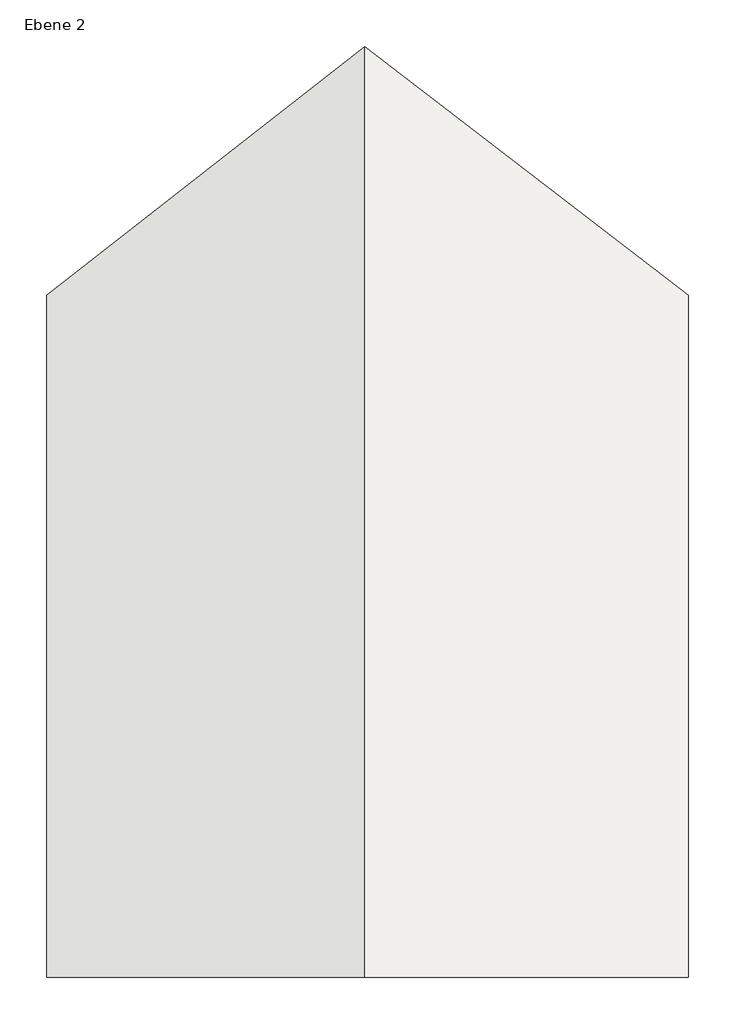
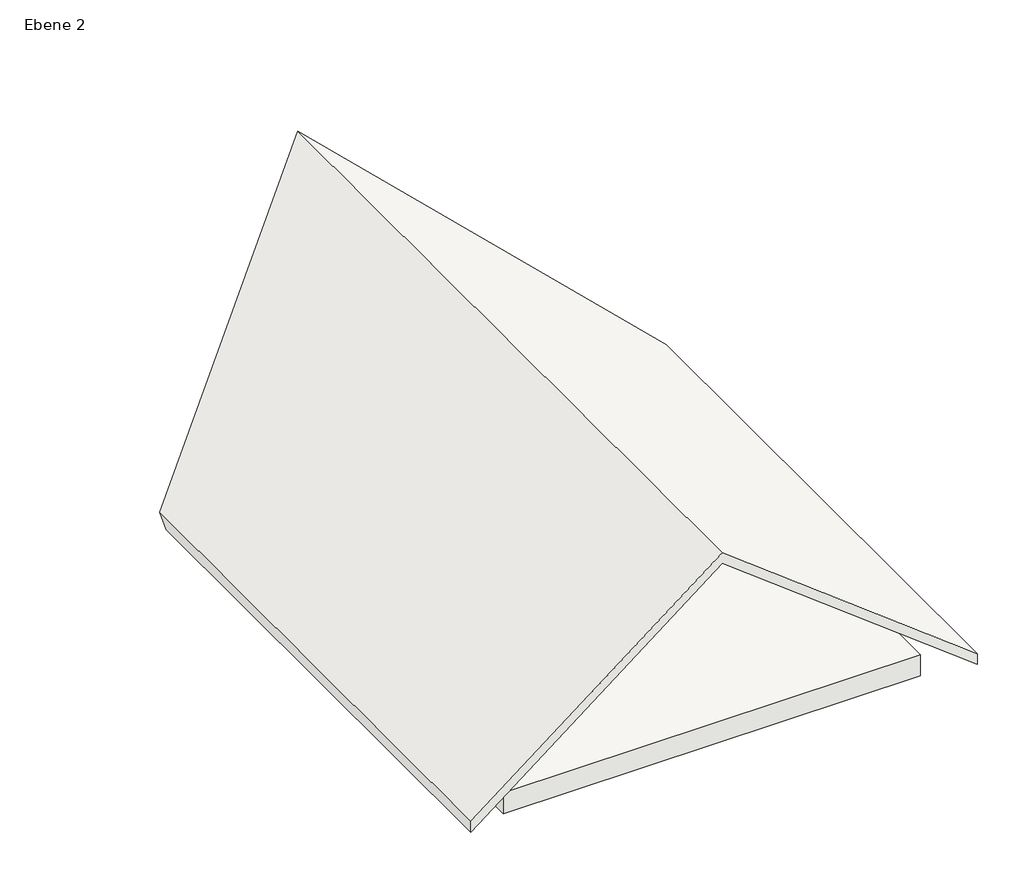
# One storey: 1 roof, 1 slab.
"""IFC4 building model written with IfcOpenShell, lengths in millimetres."""

import ifcopenshell
import ifcopenshell.guid

model = None  # the IFC model being written
_history = None  # IfcOwnerHistory: only IFC2X3 demands one
_inside = {}  # id of a spatial element -> (the spatial element, [elements in it])
_under = {}  # id of a project, library or spatial element -> (it, [spatial elements below it])
_declared = {}  # id of a project -> (the project, [libraries it declares])
_typed = {}  # id of a type object -> (the type object, [elements of that type])
_made_of = {}  # id of a material, layer set ... -> (it, [elements and type objects made of it])


def new_model(schema):
    """Start an empty IFC model of exactly this schema.

    Asked for "IFC4X3", IfcOpenShell would pick the latest addendum, in which some entities
    have other attributes; the version numbers below select the first issue.
    IFC2X3 requires an IfcOwnerHistory on every rooted entity: one is made here for all.
    """
    global model, _history
    if schema == "IFC4X3":
        model = ifcopenshell.file(schema_version=(4, 3, 0, 0))
    else:
        model = ifcopenshell.file(schema=schema)
    _inside.clear()
    _under.clear()
    _declared.clear()
    _typed.clear()
    _made_of.clear()
    _history = None
    if model.schema == "IFC2X3":
        org = make("IfcOrganization", Name="unknown")
        user = make(
            "IfcPersonAndOrganization",
            ThePerson=make("IfcPerson", FamilyName="unknown"),
            TheOrganization=org,
        )
        app = make(
            "IfcApplication",
            ApplicationDeveloper=org,
            Version="unknown",
            ApplicationFullName="unknown",
            ApplicationIdentifier="unknown",
        )
        _history = make(
            "IfcOwnerHistory",
            OwningUser=user,
            OwningApplication=app,
            ChangeAction="ADDED",
            CreationDate=0,
        )
    return model


def make(cls, **values):
    """One entity of the class cls with the attributes given. An attribute that is None is left unset."""
    return model.create_entity(
        cls, **{name: value for name, value in values.items() if value is not None}
    )


def rooted(cls, **values):
    """An entity with a GlobalId (a new one), such as an element, a storey or a relation."""
    return make(cls, GlobalId=ifcopenshell.guid.new(), OwnerHistory=_history, **values)


def si_unit(unit_type, name, prefix=None):
    """IfcSIUnit, for example si_unit("LENGTHUNIT", "METRE", prefix="MILLI")."""
    return make("IfcSIUnit", UnitType=unit_type, Prefix=prefix, Name=name)


def assignment(units):
    """IfcUnitAssignment: the units of a project."""
    return None if units is None else make("IfcUnitAssignment", Units=units)


def point(xyz):
    """IfcCartesianPoint."""
    return None if xyz is None else make("IfcCartesianPoint", Coordinates=xyz)


def direction(xyz):
    """IfcDirection."""
    return None if xyz is None else make("IfcDirection", DirectionRatios=xyz)


def frame(location, z_axis=None, x_axis=None):
    """IfcAxis2Placement3D, a coordinate frame: its origin and axes. An axis left out is left unset."""
    return make(
        "IfcAxis2Placement3D",
        Location=point(location),
        Axis=direction(z_axis),
        RefDirection=direction(x_axis),
    )


def origin():
    """The frame at (0, 0, 0) with its axes left unset."""
    return frame((0.0, 0.0, 0.0))


def place(relative_to, where):
    """IfcLocalPlacement: puts the frame where relative to a parent placement (None: the world)."""
    return make(
        "IfcLocalPlacement", PlacementRelTo=relative_to, RelativePlacement=where
    )


def context(
    kind, dimensions, precision=None, world=None, true_north=None, identifier=None
):
    """IfcGeometricRepresentationContext, for example the 3D "Model" context."""
    return make(
        "IfcGeometricRepresentationContext",
        ContextIdentifier=identifier,
        ContextType=kind,
        CoordinateSpaceDimension=dimensions,
        Precision=precision,
        WorldCoordinateSystem=world,
        TrueNorth=true_north,
    )


def project(units=None, contexts=None):
    """IfcProject with its units and contexts."""
    return rooted(
        "IfcProject",
        Name="project",
        RepresentationContexts=contexts,
        UnitsInContext=assignment(units),
    )


def spatial(cls, under=None, at=None, **own):
    """A site, building, storey or space (cls), placed at a placement, below another one or the project."""
    s = rooted(cls, ObjectPlacement=at, **own)
    if under is not None:
        _under.setdefault(under.id(), (under, []))[1].append(s)
    return s


def polyline(points):
    """IfcPolyline through the points."""
    return make("IfcPolyline", Points=[point(p) for p in points])


def outline(outer, holes=None, kind="AREA"):
    """IfcArbitraryClosedProfileDef: a profile drawn as a closed curve; with holes, ...WithVoids."""
    if holes is None:
        return make("IfcArbitraryClosedProfileDef", ProfileType=kind, OuterCurve=outer)
    return make(
        "IfcArbitraryProfileDefWithVoids",
        ProfileType=kind,
        OuterCurve=outer,
        InnerCurves=holes,
    )


def extrude(swept, where, along, depth):
    """IfcExtrudedAreaSolid: the profile swept, set in the frame where, extruded along a direction by depth."""
    return make(
        "IfcExtrudedAreaSolid",
        SweptArea=swept,
        Position=where,
        ExtrudedDirection=direction(along),
        Depth=depth,
    )


def faces_of(points, faces, orient=None, outer=None):
    """IfcFace entities. A face is a list of loops; a loop is a list of indices into points, from 0.

    orient and outer hold one flag for each loop. By default every Orientation is true, the
    first loop of a face is its IfcFaceOuterBound and the others are IfcFaceBound.
    """
    made = []
    for i, loops in enumerate(faces):
        bounds = []
        for j, loop in enumerate(loops):
            is_outer = j == 0 if outer is None else outer[i][j]
            bounds.append(
                make(
                    "IfcFaceOuterBound" if is_outer else "IfcFaceBound",
                    Bound=make("IfcPolyLoop", Polygon=[points[k] for k in loop]),
                    Orientation=True if orient is None else orient[i][j],
                )
            )
        made.append(make("IfcFace", Bounds=bounds))
    return made


def faceted_brep(points, faces, orient=None, outer=None, voids=None):
    """IfcFacetedBrep: a solid bounded by flat faces; with voids (closed shells), ...WithVoids."""
    shared = [point(p) for p in points]
    hull = make("IfcClosedShell", CfsFaces=faces_of(shared, faces, orient, outer))
    if voids is None:
        return make("IfcFacetedBrep", Outer=hull)
    return make(
        "IfcFacetedBrepWithVoids",
        Outer=hull,
        Voids=[
            make(cls, CfsFaces=faces_of(shared, fs, o, b)) for cls, fs, o, b in voids
        ],
    )


def shape(context_of_items, identifier, shape_type, items):
    """IfcShapeRepresentation: the items that make up one representation, for example the "Body"."""
    return make(
        "IfcShapeRepresentation",
        ContextOfItems=context_of_items,
        RepresentationIdentifier=identifier,
        RepresentationType=shape_type,
        Items=items,
    )


def made_of(thing, what):
    """Note that an element or type object is made of a material, layer set ...; save() writes the relation."""
    if what is not None:
        _made_of.setdefault(what.id(), (what, []))[1].append(thing)
    return thing


def element(
    cls,
    number,
    at=None,
    inside=None,
    cuts=None,
    type_object=None,
    material=None,
    context=None,
    identifier="Body",
    shape_type=None,
    held_by="IfcProductDefinitionShape",
    body=None,
    shapes=None,
    **own,
):
    """One element of the class cls, such as IfcWall. Its Tag is "e" and its number.

    at: its placement. inside: the storey or other place that contains it. cuts: it is an
    opening in that element (IfcRelVoidsElement). A single representation is given by context,
    identifier, shape_type and body (its items); several are given by shapes. held_by: the class
    of the entity that holds the representations. save() writes the other relations.
    """
    e = rooted(cls, Tag="e%d" % number, ObjectPlacement=at, **own)
    if body is not None:
        shapes = [shape(context, identifier, shape_type, body)]
    if shapes is not None:
        e.Representation = make(held_by, Representations=shapes)
    if inside is not None:
        _inside.setdefault(inside.id(), (inside, []))[1].append(e)
    if cuts is not None:
        rooted(
            "IfcRelVoidsElement", RelatingBuildingElement=cuts, RelatedOpeningElement=e
        )
    if type_object is not None:
        _typed.setdefault(type_object.id(), (type_object, []))[1].append(e)
    return made_of(e, material)


def aggregate(whole, parts):
    """IfcRelAggregates: a whole, such as a stair, and the parts it consists of."""
    return rooted("IfcRelAggregates", RelatingObject=whole, RelatedObjects=parts)


def save(model, path):
    """Write the relations noted so far, then the file.

    IfcRelAggregates (storeys below a building ...), IfcRelContainedInSpatialStructure (elements
    in a storey), IfcRelDefinesByType, IfcRelAssociatesMaterial and IfcRelDeclares: one each for
    every whole, place, type object, material and project.
    """
    for whole, parts in _under.values():
        aggregate(whole, parts)
    for where, things in _inside.values():
        rooted(
            "IfcRelContainedInSpatialStructure",
            RelatedElements=things,
            RelatingStructure=where,
        )
    for kind, things in _typed.values():
        rooted("IfcRelDefinesByType", RelatedObjects=things, RelatingType=kind)
    for what, things in _made_of.values():
        rooted("IfcRelAssociatesMaterial", RelatedObjects=things, RelatingMaterial=what)
    for by, libraries in _declared.values():
        rooted("IfcRelDeclares", RelatingContext=by, RelatedDefinitions=libraries)
    model.write(path)


model = new_model("IFC4")

# Units and contexts
model_context = context("Model", 3, world=origin())
ifc_project = project(units=[si_unit("LENGTHUNIT", "METRE", prefix="MILLI")], contexts=[model_context])

# Site, building, storey
site = spatial("IfcSite", under=ifc_project)
building = spatial("IfcBuilding", under=site)
storey = spatial("IfcBuildingStorey", under=building, Name="Ebene 2", Elevation=5500.0)

# Roof
placement = place(None, origin())
element("IfcRoof", 1, ObjectType="Titanzink - Eindeckung ohne Dicke", at=placement, inside=storey, context=model_context, shape_type="Brep", body=[
    faceted_brep([(-432.1774555, -2154.5965289, 5496.5860904), (-1004.3899838, -2154.5965289, 5936.1445316), (-1566.9991325, -2154.5965289, 5496.5860904), (-1566.9991325, -2154.5965289, 5471.2057261), (-1004.2863301, -2154.5965289, 5910.8451505), (-432.1774555, -2154.5965289, 5471.3663333), (-432.1774555, -947.5688797, 5496.5860904), (-1004.3899838, -508.0104385, 5936.1445316), (-1566.9991325, -947.5688797, 5496.5860904), (-1566.9991325, -972.949244, 5471.2057261), (-1004.2863301, -533.3098196, 5910.8451505), (-432.1774555, -972.7886368, 5471.3663333)], [[[0, 1, 2, 3, 4, 5]], [[1, 0, 6, 7]], [[2, 1, 7, 8]], [[3, 2, 8, 9]], [[4, 3, 9, 10]], [[5, 4, 10, 11]], [[0, 5, 11, 6]], [[6, 11, 10, 9, 8, 7]]]),
])

# Slab
element("IfcSlab", 2, ObjectType="Bestand Gaubendeckel", at=placement, inside=storey, context=model_context, shape_type="SweptSolid", body=[
    extrude(outline(polyline([(-532.1774555, -2106.1826192), (-1466.9991325, -2106.1826192), (-1466.9991325, -994.1549701), (-532.1774555, -994.1549701), (-532.1774555, -2106.1826192)])), frame((0.0, 0.0, 5450.0), z_axis=(0.0, 0.0, 1.0), x_axis=(1.0, 0.0, 0.0)), (0.0, 0.0, 1.0), 50.0),
])

save(model, "model.ifc")
